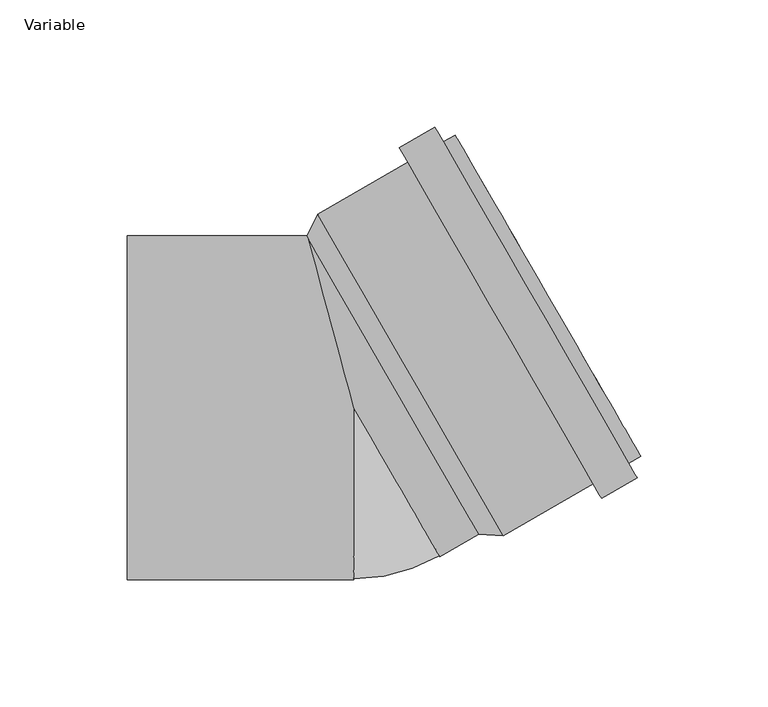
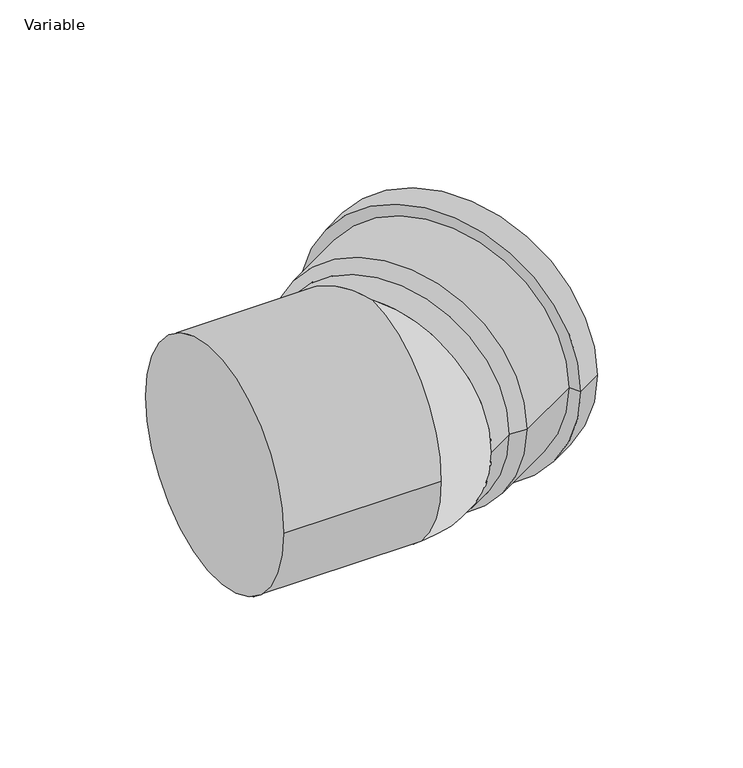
"""IFC4 building model written with IfcOpenShell, lengths in millimetres: pipe fitting geometry, AliaxisFR_Friaphon_ElbowMF_FR : Variable."""

from ifc_helpers import new_model, si_unit, point, frame, origin, place, context, project, spatial, polyline, circle_curve, ellipse_curve, trimmed, source, transform, mapped, element, save
from ifc_brep_helpers import plane_surface, cylinder_surface, revolved_surface, advanced_brep


def variable_8847d968(model_context):
    return source(origin(), model_context, "Body", "AdvancedBrep", [
        advanced_brep(
        [(112.6602355, -19.1332519, 0.0), (39.7602355, 107.1332519, 0.0), (42.4602355, 102.4567148, 0.0), (109.9602355, -14.4567148, 0.0), (97.3406894, -35.5990196, 0.0), (17.8406894, 102.0990196, 0.0), (31.7836984, 110.1490196, 0.0), (111.2836984, -27.5490196, 0.0), (94.0406894, -29.8832519, 0.0), (21.1406894, 96.3832519, 0.0), (58.7068529, -50.2832519, 0.0), (-14.1931471, 75.9832519, 0.0), (-18.5079529, 67.2567148, 0.0), (48.9920471, -49.6567148, 0.0), (107.9836984, -21.8332519, 0.0), (35.0836984, 104.4332519, 0.0)],
        [
            (0, 1, circle_curve(frame((76.2102355, 44.0, 0.0), z_axis=(0.866025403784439, 0.4999999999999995, 0.0), x_axis=(-0.4999999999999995, 0.866025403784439, 0.0)), 72.9)),
            (1, 2),
            (2, 3, circle_curve(frame((76.2102355, 44.0, 0.0), z_axis=(-0.866025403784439, -0.4999999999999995, 0.0), x_axis=(-0.4999999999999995, 0.866025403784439, 0.0)), 67.5)),
            (3, 0),
            (1, 0, circle_curve(frame((76.2102355, 44.0, 0.0), z_axis=(0.866025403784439, 0.4999999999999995, 0.0), x_axis=(-0.4999999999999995, 0.866025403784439, 0.0)), 72.9)),
            (3, 2, circle_curve(frame((76.2102355, 44.0, 0.0), z_axis=(-0.866025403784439, -0.4999999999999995, 0.0), x_axis=(-0.4999999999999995, 0.866025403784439, 0.0)), 67.5)),
            (4, 5, circle_curve(frame((57.5906894, 33.25, 0.0), z_axis=(0.866025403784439, 0.4999999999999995, 0.0), x_axis=(-0.4999999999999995, 0.866025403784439, 0.0)), 79.5)),
            (5, 6),
            (6, 7, circle_curve(frame((71.5336984, 41.3, 0.0), z_axis=(-0.866025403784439, -0.4999999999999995, 0.0), x_axis=(-0.4999999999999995, 0.866025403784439, 0.0)), 79.5)),
            (7, 4),
            (5, 4, circle_curve(frame((57.5906894, 33.25, 0.0), z_axis=(0.866025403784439, 0.4999999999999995, 0.0), x_axis=(-0.4999999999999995, 0.866025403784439, 0.0)), 79.5)),
            (7, 6, circle_curve(frame((71.5336984, 41.3, 0.0), z_axis=(-0.866025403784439, -0.4999999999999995, 0.0), x_axis=(-0.4999999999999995, 0.866025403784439, 0.0)), 79.5)),
            (8, 9, circle_curve(frame((57.5906894, 33.25, 0.0), z_axis=(0.866025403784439, 0.4999999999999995, 0.0), x_axis=(-0.4999999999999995, 0.866025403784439, 0.0)), 72.9)),
            (9, 5),
            (4, 8),
            (9, 8, circle_curve(frame((57.5906894, 33.25, 0.0), z_axis=(0.866025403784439, 0.4999999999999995, 0.0), x_axis=(-0.4999999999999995, 0.866025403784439, 0.0)), 72.9)),
            (10, 11, circle_curve(frame((22.2568529, 12.85, 0.0), z_axis=(0.866025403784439, 0.4999999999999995, 0.0), x_axis=(-0.4999999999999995, 0.866025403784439, 0.0)), 72.9)),
            (11, 9),
            (8, 10),
            (11, 10, circle_curve(frame((22.2568529, 12.85, 0.0), z_axis=(0.866025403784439, 0.4999999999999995, 0.0), x_axis=(-0.4999999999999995, 0.866025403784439, 0.0)), 72.9)),
            (2, 12),
            (12, 13, circle_curve(frame((15.2420471, 8.8, 0.0), z_axis=(-0.866025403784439, -0.4999999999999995, 0.0), x_axis=(-0.4999999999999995, 0.866025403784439, 0.0)), 67.5)),
            (13, 3),
            (13, 12, circle_curve(frame((15.2420471, 8.8, 0.0), z_axis=(-0.866025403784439, -0.4999999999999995, 0.0), x_axis=(-0.4999999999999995, 0.866025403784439, 0.0)), 67.5)),
            (12, 11),
            (10, 13),
            (14, 15, circle_curve(frame((71.5336984, 41.3, 0.0), z_axis=(0.866025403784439, 0.4999999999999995, 0.0), x_axis=(-0.4999999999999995, 0.866025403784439, 0.0)), 72.9)),
            (15, 1),
            (0, 14),
            (15, 14, circle_curve(frame((71.5336984, 41.3, 0.0), z_axis=(0.866025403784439, 0.4999999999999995, 0.0), x_axis=(-0.4999999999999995, 0.866025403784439, 0.0)), 72.9)),
            (6, 15),
            (14, 7),
        ],
        [
            plane_surface(frame((76.2102355, 44.0, 0.0), z_axis=(0.866025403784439, 0.4999999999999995, 0.0), x_axis=(-0.4999999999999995, 0.866025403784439, 0.0))),
            cylinder_surface(frame((15.2420471, 8.8, 0.0), z_axis=(-0.866025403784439, -0.4999999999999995, 0.0), x_axis=(-0.4999999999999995, 0.866025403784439, 0.0)), 79.5),
            plane_surface(frame((57.5906894, 33.25, 0.0), z_axis=(-0.866025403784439, -0.4999999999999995, 0.0), x_axis=(-0.4999999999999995, 0.866025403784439, 0.0))),
            cylinder_surface(frame((15.2420471, 8.8, 0.0), z_axis=(-0.866025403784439, -0.4999999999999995, 0.0), x_axis=(-0.4999999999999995, 0.866025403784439, 0.0)), 72.9),
            revolved_surface(polyline([(-18.507952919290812, 67.25671474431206, 0.0), (42.46023552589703, 102.45671475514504, 0.0)]), (15.2420471, 8.8, 0.0), (-0.866025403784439, -0.4999999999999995, 0.0)),
            revolved_surface(polyline([(-14.1931471, 75.9832519, 0.0), (-18.5079529, 67.2567148, 0.0)]), (15.2420471, 8.8, 0.0), (-0.866025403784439, -0.4999999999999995, 0.0)),
            plane_surface(frame((71.5336984, 41.3, 0.0), z_axis=(0.866025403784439, 0.4999999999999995, 0.0), x_axis=(-0.4999999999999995, 0.866025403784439, 0.0))),
        ],
        [
            (0, [[1, 2, 3, 4]]),
            (0, [[5, -4, 6, -2]]),
            (1, [[7, 8, 9, 10]]),
            (1, [[11, -10, 12, -8]]),
            (2, [[13, 14, -7, 15]]),
            (2, [[16, -15, -11, -14]]),
            (3, [[17, 18, -13, 19]]),
            (3, [[20, -19, -16, -18]]),
            (4, [[-3, 21, 22, 23]]),
            (4, [[-6, -23, 24, -21]]),
            (5, [[-22, 25, -17, 26]]),
            (5, [[-24, -26, -20, -25]]),
            (3, [[27, 28, -1, 29]]),
            (3, [[30, -29, -5, -28]]),
            (6, [[-9, 31, -27, 32]]),
            (6, [[-12, -32, -30, -31]]),
        ],
    ),
        advanced_brep(
        [(-13.8314157, 69.9567148, 0.0), (53.6685843, -46.9567148, 0.0), (33.75, -58.4567148, 0.0), (-18.0865705, 67.5, 0.0), (0.0, 0.0, 67.5), (0.0, 0.0, -67.5), (-89.0, -67.5, 0.0), (-89.0, 67.5, 0.0), (0.0, -67.5, 0.0)],
        [
            (0, 1, circle_curve(frame((19.9185843, 11.5, 0.0), z_axis=(0.8660254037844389, 0.4999999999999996, 0.0), x_axis=(-0.4999999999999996, 0.8660254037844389, 0.0)), 67.5)),
            (1, 0, circle_curve(frame((19.9185843, 11.5, 0.0), z_axis=(0.8660254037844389, 0.4999999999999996, 0.0), x_axis=(-0.4999999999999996, 0.8660254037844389, 0.0)), 67.5)),
            (2, 1),
            (0, 3),
            (3, 4, ellipse_curve(frame((0.0, 0.0, 0.0), z_axis=(0.9659258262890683, 0.2588190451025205, 0.0), x_axis=(0.25881904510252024, -0.9659258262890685, 0.0)), 69.8811422, 67.5)),
            (4, 2, circle_curve(frame((0.0, 0.0, 0.0), z_axis=(0.8660254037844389, 0.4999999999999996, 0.0), x_axis=(-0.4999999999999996, 0.8660254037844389, 0.0)), 67.5)),
            (2, 5, circle_curve(frame((0.0, 0.0, 0.0), z_axis=(0.8660254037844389, 0.4999999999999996, 0.0), x_axis=(-0.4999999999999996, 0.8660254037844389, 0.0)), 67.5)),
            (5, 3, ellipse_curve(frame((0.0, 0.0, 0.0), z_axis=(0.9659258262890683, 0.2588190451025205, 0.0), x_axis=(0.25881904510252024, -0.9659258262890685, 0.0)), 69.8811422, 67.5)),
            (6, 7, circle_curve(frame((-89.0, 0.0, 0.0), z_axis=(-1.0, 0.0, 0.0), x_axis=(0.0, 1.0, 0.0)), 67.5)),
            (7, 6, circle_curve(frame((-89.0, 0.0, 0.0), z_axis=(-1.0, 0.0, 0.0), x_axis=(0.0, 1.0, 0.0)), 67.5)),
            (6, 8),
            (8, 4, circle_curve(frame((0.0, 0.0, 0.0), z_axis=(-1.0, 0.0, 0.0), x_axis=(0.0, 1.0, 0.0)), 67.5)),
            (3, 7),
            (5, 8, circle_curve(frame((0.0, 0.0, 0.0), z_axis=(-1.0, 0.0, 0.0), x_axis=(0.0, 1.0, 0.0)), 67.5)),
        ],
        [
            plane_surface(frame((19.9185843, 11.5, 0.0), z_axis=(0.8660254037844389, 0.49999999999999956, 0.0), x_axis=(0.0, 0.0, 1.0))),
            cylinder_surface(frame((0.0, 0.0, 0.0), z_axis=(-0.8660254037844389, -0.4999999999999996, 0.0), x_axis=(-0.4999999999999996, 0.8660254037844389, 0.0)), 67.5),
            plane_surface(frame((-89.0, 0.0, 0.0), z_axis=(-1.0, 0.0, 0.0), x_axis=(0.0, 0.0, 1.0))),
            cylinder_surface(frame((-89.0, 0.0, 0.0), z_axis=(-1.0, 0.0, 0.0), x_axis=(0.0, 1.0, 0.0)), 67.5),
            revolved_surface(trimmed(ellipse_curve(frame((0.0, 0.0, 0.0), z_axis=(0.8660254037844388, 0.49999999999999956, 0.0), x_axis=(-0.49999999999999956, 0.8660254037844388, 0.0)), 67.5, 67.5), [point((0.0, 0.0, 67.5))], [point((0.0, 0.0, -67.5))], True, "CARTESIAN"), (0.0, 0.0, 67.5), (0.0, 0.0, -1.0)),
        ],
        [
            (0, [[1, 2]]),
            (1, [[3, -1, 4, 5, 6]]),
            (1, [[-2, -3, 7, 8, -4]]),
            (2, [[9, 10]]),
            (3, [[-9, 11, 12, -5, 13]]),
            (3, [[-10, -13, -8, 14, -11]]),
            (4, [[-12, -14, -7, -6]]),
        ],
    ),
    ])


if __name__ == "__main__":
    model = new_model("IFC4")
    model_context = context("Model", 3, world=origin())
    ifc_project = project(units=[si_unit("LENGTHUNIT", "METRE", prefix="MILLI")], contexts=[model_context])
    site = spatial("IfcSite", under=ifc_project)
    building = spatial("IfcBuilding", under=site)
    placement = place(None, origin())
    variable_shape = variable_8847d968(model_context)
    element("IfcPipeFitting", 1, ObjectType="AliaxisFR_Friaphon_ElbowMF_FR : Variable", at=placement, inside=building, context=model_context, shape_type="MappedRepresentation", body=[
        mapped(variable_shape, transform((0.0, 0.0, 0.0), x_axis=(1.0, 0.0, 0.0), y_axis=(0.0, 1.0, 0.0), z_axis=(0.0, 0.0, 1.0))),
    ])
    save(model, "model.ifc")
